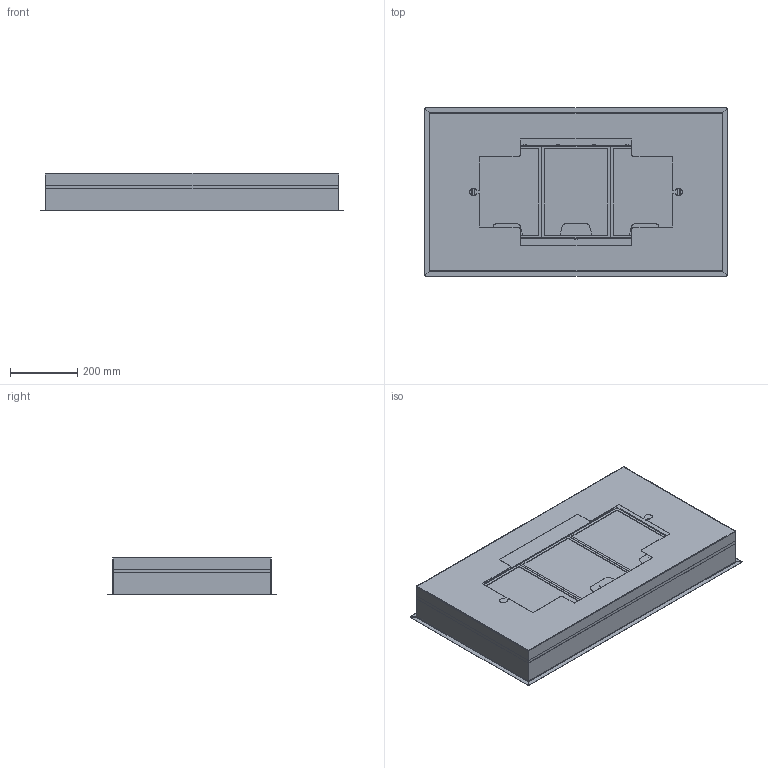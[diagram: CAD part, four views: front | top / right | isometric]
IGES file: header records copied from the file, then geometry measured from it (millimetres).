
Global section: file name: F:\_CONVERSIONE_CAD_2024_2025\03_3D kits new\07_Hoods\Solo Logo Piatto o 3D\3D001_Hoods_Mythos_FCMY-90-C-FL\3D001_Hoods_Mythos_FCMY-90-C-FL.igs; native system: Rhinoceros ( Jan  9 2024 ); preprocessor: Trout Lake IGES 012 Jan  9 2024; date: 240214.103828; units: millimetre
Bounding box: 898.6 x 498.6 x 112.5 mm (x, y, z)
Surface area: 3566181.7 mm2 (no closed solid volume)
Topology: 0 solids, 0 shells, 1494 faces, 7875 edges, 7875 vertices
Faces by surface type: bspline 1494
